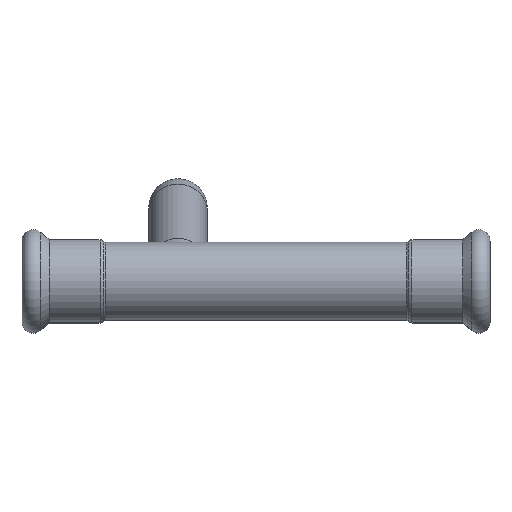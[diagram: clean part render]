
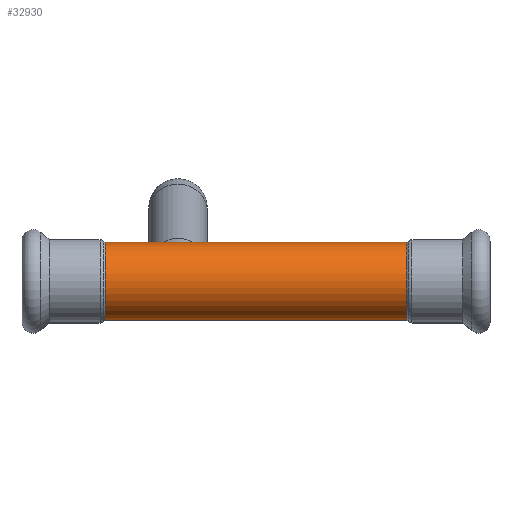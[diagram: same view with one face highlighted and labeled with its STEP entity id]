
A CAD part, top view. The second image highlights one B-rep face of the part: STEP entity #32930.
In plain terms, the highlighted cylindrical face has radius 10 mm (diameter 20 mm), a partial arc.
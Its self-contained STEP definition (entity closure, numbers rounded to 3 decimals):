
#3080=CARTESIAN_POINT('',(-65.883,92.285,
0.));
#3090=VERTEX_POINT('',#3080);
#3170=CARTESIAN_POINT('',(-65.883,112.285,0.));
#3180=VERTEX_POINT('',#3170);
#3210=CARTESIAN_POINT('',(-65.883,102.285,0.));
#3220=DIRECTION('',(1.,0.,0.));
#3230=DIRECTION('',(0.,-1.,0.));
#3240=AXIS2_PLACEMENT_3D('',#3210,#3220,#3230);
#3250=CIRCLE('',#3240,10.);
#3720=CARTESIAN_POINT('',(11.535,92.285,0.));
#3730=VERTEX_POINT('',#3720);
#3780=CARTESIAN_POINT('',(11.535,102.285,0.));
#3790=DIRECTION('',(1.,0.,0.));
#3800=DIRECTION('',(0.,-1.,0.));
#3810=AXIS2_PLACEMENT_3D('',#3780,#3790,#3800);
#3820=CIRCLE('',#3810,10.);
#3830=CARTESIAN_POINT('',(11.535,112.285,
0.));
#3840=VERTEX_POINT('',#3830);
#5630=CARTESIAN_POINT('',(-27.174,102.285,0.));
#5640=DIRECTION('',(1.,0.,0.));
#5650=DIRECTION('',(0.,-1.,0.));
#5660=AXIS2_PLACEMENT_3D('',#5630,#5640,#5650);
#5670=CYLINDRICAL_SURFACE('',#5660,10.);
#8970=CARTESIAN_POINT('',(-27.174,112.285,
0.));
#8980=DIRECTION('',(1.,0.,0.));
#8990=VECTOR('',#8980,1.);
#9000=LINE('',#8970,#8990);
#9010=EDGE_CURVE('',#3180,#3840,#9000,.T.);
#9040=CARTESIAN_POINT('',(-27.174,92.285,0.));
#9050=DIRECTION('',(1.,0.,0.));
#9060=VECTOR('',#9050,1.);
#9070=LINE('',#9040,#9060);
#9080=EDGE_CURVE('',#3090,#3730,#9070,.T.);
#32450=EDGE_CURVE('',#3730,#3840,#3820,.T.);
#32810=EDGE_CURVE('',#3090,#3180,#3250,.T.);
#32870=ORIENTED_EDGE('',*,*,#32450,.F.);
#32880=ORIENTED_EDGE('',*,*,#9010,.T.);
#32890=ORIENTED_EDGE('',*,*,#32810,.T.);
#32900=ORIENTED_EDGE('',*,*,#9080,.F.);
#32910=EDGE_LOOP('',(#32900,#32890,#32880,#32870));
#32920=FACE_OUTER_BOUND('',#32910,.T.);
#32930=ADVANCED_FACE('',(#32920),#5670,.T.);
